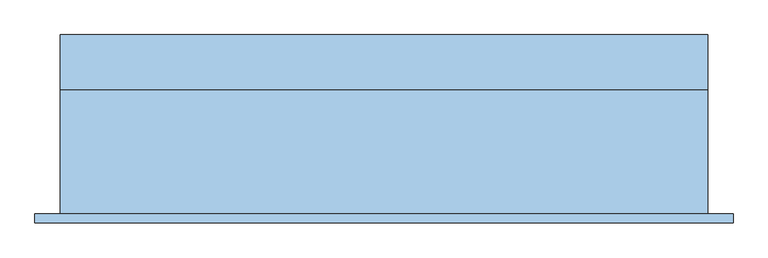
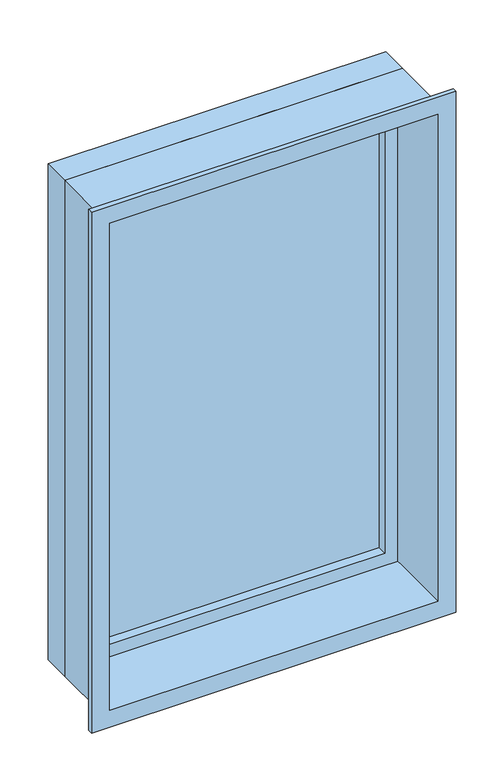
"""IFC4 building model written with IfcOpenShell, lengths in millimetres: window geometry, Vindu FK : 11X17 FK V5/6."""

from ifc_helpers import new_model, si_unit, frame, origin, place, context, project, spatial, polyline, outline, extrude, faceted_brep, source, transform, mapped, element, save


def window_bf6cdb4d(model_context):
    return source(origin(), model_context, "Body", "SolidModel", [
        extrude(outline(polyline([(-506.0, 94.0), (506.0, 94.0), (506.0, 70.0), (-506.0, 70.0), (-506.0, 94.0)])), frame((0.0, 0.0, 929.0), z_axis=(0.0, 0.0, 1.0), x_axis=(1.0, 0.0, 0.0)), (0.0, 0.0, 1.0), 1612.0),
        faceted_brep([(-545.0, 130.0, 890.0), (-545.0, 38.0, 890.0), (-545.0, 38.0, 2580.0), (-545.0, 130.0, 2580.0), (-506.0, 70.0, 929.0), (-506.0, 130.0, 929.0), (-506.0, 130.0, 2541.0), (-506.0, 70.0, 2541.0), (-488.0, 38.0, 947.0), (-488.0, 70.0, 947.0), (-488.0, 70.0, 2523.0), (-488.0, 38.0, 2523.0), (545.0, 38.0, 2580.0), (545.0, 130.0, 2580.0), (506.0, 130.0, 2541.0), (506.0, 70.0, 2541.0), (488.0, 70.0, 2523.0), (488.0, 38.0, 2523.0), (545.0, 38.0, 890.0), (545.0, 130.0, 890.0), (506.0, 130.0, 929.0), (506.0, 70.0, 929.0), (488.0, 70.0, 947.0), (488.0, 38.0, 947.0)], [[[0, 1, 2, 3]], [[4, 5, 6, 7]], [[8, 9, 10, 11]], [[3, 2, 12, 13]], [[7, 6, 14, 15]], [[11, 10, 16, 17]], [[13, 12, 18, 19]], [[15, 14, 20, 21]], [[17, 16, 22, 23]], [[19, 18, 1, 0]], [[3, 13, 19, 0], [5, 20, 14, 6]], [[21, 20, 5, 4]], [[7, 15, 21, 4], [9, 22, 16, 10]], [[23, 22, 9, 8]], [[1, 18, 12, 2], [11, 17, 23, 8]]]),
        faceted_brep([(-545.0, -172.0, 890.0), (-545.0, 38.0, 890.0), (545.0, 38.0, 890.0), (545.0, -172.0, 890.0), (545.0, 38.0, 2580.0), (545.0, -172.0, 2580.0), (-545.0, 38.0, 2580.0), (530.0, 38.0, 2565.0), (-530.0, 38.0, 2565.0), (-530.0, 38.0, 905.0), (530.0, 38.0, 905.0), (588.0, -172.0, 847.0), (-588.0, -172.0, 847.0), (-588.0, -172.0, 2623.0), (588.0, -172.0, 2623.0), (-545.0, -172.0, 2580.0), (-588.0, -187.0, 847.0), (588.0, -187.0, 847.0), (588.0, -187.0, 2623.0), (-588.0, -187.0, 2623.0), (530.0, -187.0, 905.0), (-530.0, -187.0, 905.0), (-530.0, -187.0, 2565.0), (530.0, -187.0, 2565.0)], [[[0, 1, 2, 3]], [[3, 2, 4, 5]], [[2, 1, 6, 4], [7, 8, 9, 10]], [[11, 12, 13, 14], [5, 15, 0, 3]], [[16, 12, 11, 17]], [[17, 11, 14, 18]], [[18, 19, 16, 17], [20, 21, 22, 23]], [[9, 21, 20, 10]], [[10, 20, 23, 7]], [[15, 6, 1, 0]], [[19, 13, 12, 16]], [[8, 22, 21, 9]], [[5, 4, 6, 15]], [[18, 14, 13, 19]], [[7, 23, 22, 8]]]),
    ])


if __name__ == "__main__":
    model = new_model("IFC4")
    model_context = context("Model", 3, world=origin())
    ifc_project = project(units=[si_unit("LENGTHUNIT", "METRE", prefix="MILLI")], contexts=[model_context])
    site = spatial("IfcSite", under=ifc_project)
    building = spatial("IfcBuilding", under=site)
    placement = place(None, origin())
    window_shape = window_bf6cdb4d(model_context)
    element("IfcWindow", 1, ObjectType="Vindu FK : 11X17 FK V5/6", at=placement, inside=building, context=model_context, shape_type="MappedRepresentation", body=[
        mapped(window_shape, transform((0.0, 0.0, 0.0), x_axis=(1.0, 0.0, 0.0), y_axis=(0.0, 1.0, 0.0), z_axis=(0.0, 0.0, 1.0))),
    ])
    save(model, "model.ifc")
